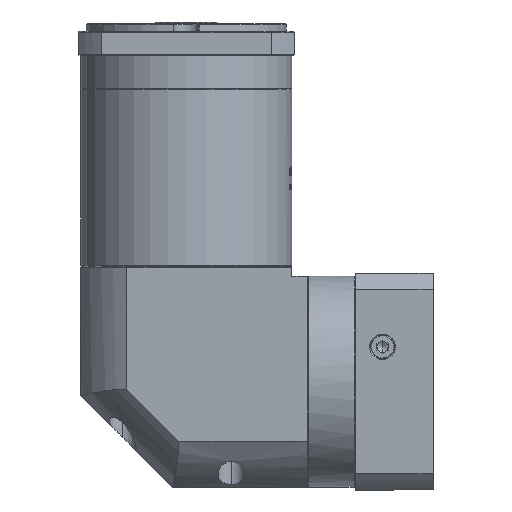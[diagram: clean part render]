
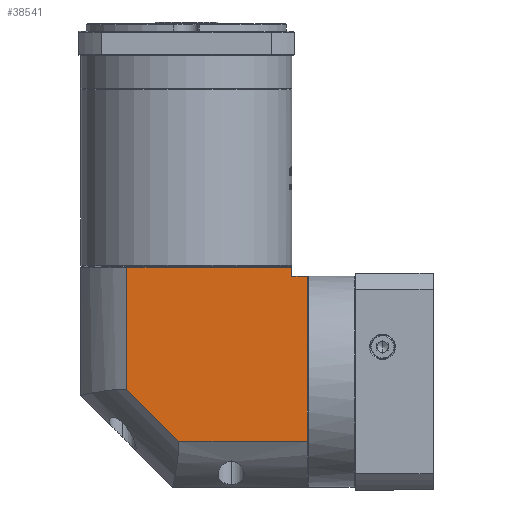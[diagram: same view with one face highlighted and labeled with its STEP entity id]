
A CAD part, left-side view. The second image highlights one B-rep face of the part: STEP entity #38541.
In plain terms, the highlighted planar face has unit normal (-1, 0, 0).
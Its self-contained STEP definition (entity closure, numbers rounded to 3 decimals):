
#3336 = DIRECTION ( 'NONE',  ( 0., 0., 1. ) ) ;
#4792 = VERTEX_POINT ( 'NONE', #113013 ) ;
#9521 = EDGE_CURVE ( 'NONE', #4792, #152093, #115492, .T. ) ;
#10655 = PLANE ( 'NONE',  #111951 ) ;
#11177 = VERTEX_POINT ( 'NONE', #141279 ) ;
#11759 = DIRECTION ( 'NONE',  ( 1., 0., 0. ) ) ;
#13469 = DIRECTION ( 'NONE',  ( 0., 0., -1. ) ) ;
#19464 = VECTOR ( 'NONE', #13469, 1000. ) ;
#24478 = DIRECTION ( 'NONE',  ( 0., 1., 0. ) ) ;
#32621 = VERTEX_POINT ( 'NONE', #98111 ) ;
#34307 = VECTOR ( 'NONE', #105259, 1000. ) ;
#34875 = VECTOR ( 'NONE', #74349, 1000. ) ;
#35011 = CARTESIAN_POINT ( 'NONE',  ( -224.318, 14.379, 37.029 ) ) ;
#36975 = VECTOR ( 'NONE', #3336, 1000. ) ;
#38541 = ADVANCED_FACE ( 'NONE', ( #142052 ), #10655, .F. ) ;
#42186 = CARTESIAN_POINT ( 'NONE',  ( -224.318, -100.621, 11.928 ) ) ;
#42428 = LINE ( 'NONE', #75879, #137369 ) ;
#46569 = ORIENTED_EDGE ( 'NONE', *, *, #137895, .F. ) ;
#50370 = ORIENTED_EDGE ( 'NONE', *, *, #139501, .T. ) ;
#51047 = DIRECTION ( 'NONE',  ( 0., -1., 0. ) ) ;
#51571 = LINE ( 'NONE', #93334, #116944 ) ;
#51575 = VERTEX_POINT ( 'NONE', #126391 ) ;
#53674 = EDGE_CURVE ( 'NONE', #51575, #82527, #42428, .T. ) ;
#56961 = VECTOR ( 'NONE', #80938, 1000. ) ;
#57251 = LINE ( 'NONE', #89364, #19464 ) ;
#58670 = ORIENTED_EDGE ( 'NONE', *, *, #114060, .F. ) ;
#62302 = CARTESIAN_POINT ( 'NONE',  ( -224.318, -10.721, 65.367 ) ) ;
#66583 = CARTESIAN_POINT ( 'NONE',  ( -224.318, -10.721, 138.428 ) ) ;
#71185 = CARTESIAN_POINT ( 'NONE',  ( -224.318, -109.021, 37.029 ) ) ;
#72774 = LINE ( 'NONE', #66583, #36975 ) ;
#74349 = DIRECTION ( 'NONE',  ( 0., 1., 0. ) ) ;
#75879 = CARTESIAN_POINT ( 'NONE',  ( -224.318, 14.379, 131.928 ) ) ;
#80855 = VERTEX_POINT ( 'NONE', #71185 ) ;
#80938 = DIRECTION ( 'NONE',  ( 0., 0., 1. ) ) ;
#82527 = VERTEX_POINT ( 'NONE', #99151 ) ;
#86822 = EDGE_LOOP ( 'NONE', ( #125856, #101769, #58670, #46569, #93891, #50370, #123443 ) ) ;
#89364 = CARTESIAN_POINT ( 'NONE',  ( -224.318, -109.021, 138.428 ) ) ;
#90555 = LINE ( 'NONE', #42186, #56961 ) ;
#91539 = EDGE_CURVE ( 'NONE', #11177, #32621, #51571, .T. ) ;
#93334 = CARTESIAN_POINT ( 'NONE',  ( -224.318, -100.621, 126.928 ) ) ;
#93891 = ORIENTED_EDGE ( 'NONE', *, *, #91539, .T. ) ;
#98111 = CARTESIAN_POINT ( 'NONE',  ( -224.318, -100.621, 126.928 ) ) ;
#99151 = CARTESIAN_POINT ( 'NONE',  ( -224.318, -100.621, 131.928 ) ) ;
#99784 = CARTESIAN_POINT ( 'NONE',  ( -224.318, 14.379, 138.428 ) ) ;
#101769 = ORIENTED_EDGE ( 'NONE', *, *, #9521, .F. ) ;
#105259 = DIRECTION ( 'NONE',  ( 0., 0.707, 0.707 ) ) ;
#111951 = AXIS2_PLACEMENT_3D ( 'NONE', #99784, #11759, #24478 ) ;
#113013 = CARTESIAN_POINT ( 'NONE',  ( -224.318, -39.059, 37.029 ) ) ;
#114060 = EDGE_CURVE ( 'NONE', #80855, #4792, #120068, .T. ) ;
#115492 = LINE ( 'NONE', #155614, #34307 ) ;
#116944 = VECTOR ( 'NONE', #157472, 1000. ) ;
#117584 = EDGE_CURVE ( 'NONE', #152093, #51575, #72774, .T. ) ;
#120068 = LINE ( 'NONE', #35011, #34875 ) ;
#123443 = ORIENTED_EDGE ( 'NONE', *, *, #53674, .F. ) ;
#125856 = ORIENTED_EDGE ( 'NONE', *, *, #117584, .F. ) ;
#126391 = CARTESIAN_POINT ( 'NONE',  ( -224.318, -10.721, 131.928 ) ) ;
#137369 = VECTOR ( 'NONE', #51047, 1000. ) ;
#137895 = EDGE_CURVE ( 'NONE', #11177, #80855, #57251, .T. ) ;
#139501 = EDGE_CURVE ( 'NONE', #32621, #82527, #90555, .T. ) ;
#141279 = CARTESIAN_POINT ( 'NONE',  ( -224.318, -109.021, 126.928 ) ) ;
#142052 = FACE_OUTER_BOUND ( 'NONE', #86822, .T. ) ;
#152093 = VERTEX_POINT ( 'NONE', #62302 ) ;
#155614 = CARTESIAN_POINT ( 'NONE',  ( -224.318, -39.059, 37.029 ) ) ;
#157472 = DIRECTION ( 'NONE',  ( 0., 1., 0. ) ) ;
